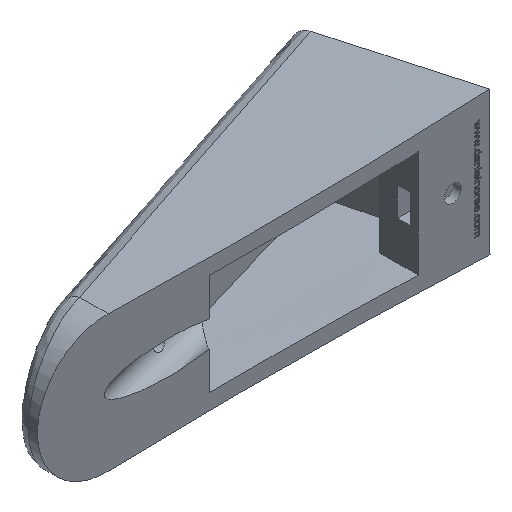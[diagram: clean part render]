
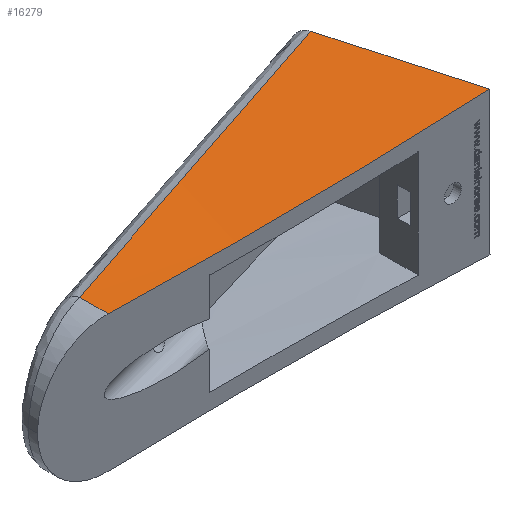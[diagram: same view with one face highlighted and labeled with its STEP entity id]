
A CAD part, isometric view. The second image highlights one B-rep face of the part: STEP entity #16279.
In plain terms, the highlighted cylindrical face has radius 940 mm (diameter 1880 mm), a partial arc.
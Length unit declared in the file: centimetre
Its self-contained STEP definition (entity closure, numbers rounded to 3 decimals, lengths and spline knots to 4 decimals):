
#37=CYLINDRICAL_SURFACE('',#16675,94.);
#390=ELLIPSE('',#16676,363.1881,94.);
#482=CIRCLE('',#16456,94.);
#1367=FACE_OUTER_BOUND('',#2323,.T.);
#2323=EDGE_LOOP('',(#14853,#14854,#14855,#14856));
#3653=LINE('',#32851,#4976);
#4976=VECTOR('',#18782,1.);
#6027=B_SPLINE_CURVE_WITH_KNOTS('',3,(#32855,#32856,#32857,#32858),
 .UNSPECIFIED.,.F.,.F.,(4,4),(0.,7.0265),
 .UNSPECIFIED.);
#6056=VERTEX_POINT('',#19257);
#6715=VERTEX_POINT('',#24651);
#6717=VERTEX_POINT('',#24654);
#7638=VERTEX_POINT('',#32853);
#8662=EDGE_CURVE('',#6717,#6715,#482,.T.);
#10047=EDGE_CURVE('',#6717,#6056,#3653,.T.);
#10048=EDGE_CURVE('',#7638,#6715,#390,.T.);
#10049=EDGE_CURVE('',#6056,#7638,#6027,.T.);
#14853=ORIENTED_EDGE('',*,*,#10048,.F.);
#14854=ORIENTED_EDGE('',*,*,#10049,.F.);
#14855=ORIENTED_EDGE('',*,*,#10047,.F.);
#14856=ORIENTED_EDGE('',*,*,#8662,.T.);
#16279=ADVANCED_FACE('',(#1367),#37,.F.);
#16456=AXIS2_PLACEMENT_3D('',#24655,#17608,#17609);
#16675=AXIS2_PLACEMENT_3D('',#32852,#18783,#18784);
#16676=AXIS2_PLACEMENT_3D('',#32854,#18785,#18786);
#17608=DIRECTION('center_axis',(0.,-1.,0.));
#17609=DIRECTION('ref_axis',(-0.03,0.,-1.));
#18782=DIRECTION('',(0.,1.,0.));
#18783=DIRECTION('center_axis',(0.,-1.,0.));
#18784=DIRECTION('ref_axis',(-0.03,0.,-1.));
#18785=DIRECTION('center_axis',(-0.966,-0.259,0.));
#18786=DIRECTION('ref_axis',(-0.259,0.966,0.));
#19257=CARTESIAN_POINT('',(-20.8807,0.9672,1.3144));
#24651=CARTESIAN_POINT('',(-13.4925,0.415,1.3861));
#24654=CARTESIAN_POINT('',(-20.8807,0.415,1.3144));
#24655=CARTESIAN_POINT('Origin',(-18.0973,0.415,95.2732));
#32851=CARTESIAN_POINT('',(-20.8807,0.4,1.3144));
#32852=CARTESIAN_POINT('Origin',(-18.0973,0.4,95.2732));
#32853=CARTESIAN_POINT('',(-14.226,3.1525,1.353));
#32854=CARTESIAN_POINT('Origin',(-18.0973,17.5538,95.2732));
#32855=CARTESIAN_POINT('Ctrl Pts',(-20.8807,0.9672,
1.3144));
#32856=CARTESIAN_POINT('Ctrl Pts',(-18.6794,1.745,1.2492));
#32857=CARTESIAN_POINT('Ctrl Pts',(-16.4588,2.4742,1.2609));
#32858=CARTESIAN_POINT('Ctrl Pts',(-14.226,3.1525,1.353));
